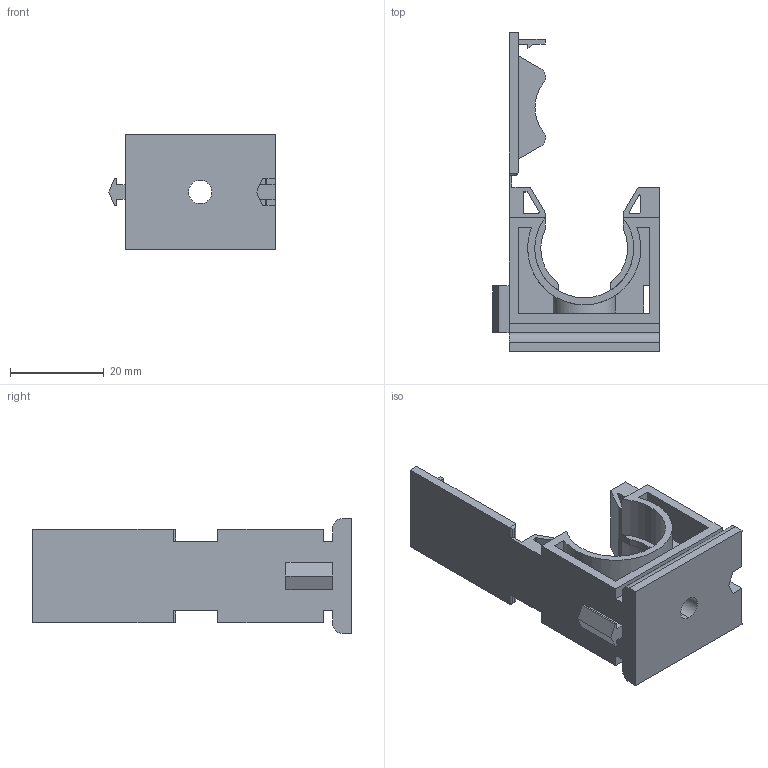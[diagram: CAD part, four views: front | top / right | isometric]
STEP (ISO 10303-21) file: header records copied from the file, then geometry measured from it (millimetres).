
FILE_DESCRIPTION (( 'STEP AP203' ), '1' );
FILE_NAME ('WQSC-AD21.2.STEP', '2016-03-25T02:37:12', ( '' ), ( '' ), 'SwSTEP 2.0', 'SolidWorks 2010', '' );
FILE_SCHEMA (( 'CONFIG_CONTROL_DESIGN' ));
Length unit declared in the file: millimetre
Products named in the file (1): WQSC-AD21.2
Bounding box: 35.5 x 68 x 24.5 mm (x, y, z)
Volume: 10837.3 mm3; surface area: 9897.8 mm2
Topology: 1 solids, 1 shells, 147 faces, 427 edges, 284 vertices
Faces by surface type: plane 100, cylinder 47
Entity records: 5081 total; most frequent: CARTESIAN_POINT 1025, ORIENTED_EDGE 854, DIRECTION 807, EDGE_CURVE 427, LINE 325, VECTOR 325, VERTEX_POINT 284, AXIS2_PLACEMENT_3D 241
